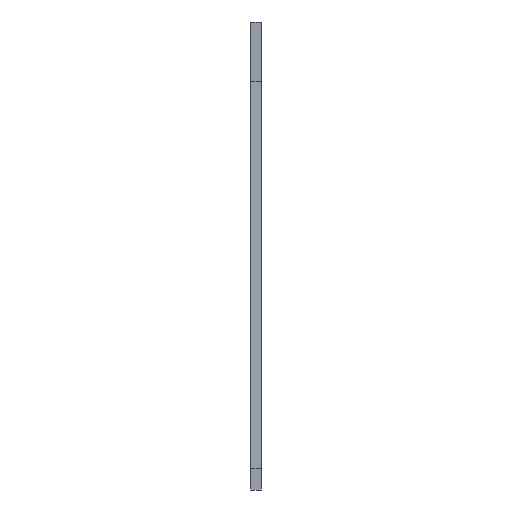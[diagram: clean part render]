
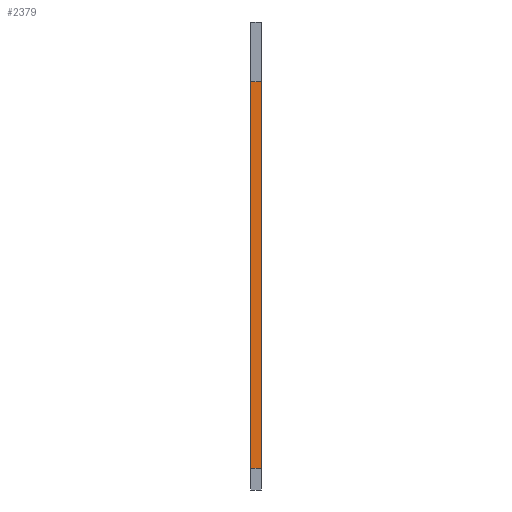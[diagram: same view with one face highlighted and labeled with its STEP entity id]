
A CAD part, front view. The second image highlights one B-rep face of the part: STEP entity #2379.
In plain terms, the highlighted planar face has unit normal (0, -1, 0.031).
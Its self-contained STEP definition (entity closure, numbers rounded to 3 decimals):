
#32 = PLANE('',#33);
#33 = AXIS2_PLACEMENT_3D('',#34,#35,#36);
#34 = CARTESIAN_POINT('',(143.,39.,-22.));
#35 = DIRECTION('',(-1.,-0.,-0.));
#36 = DIRECTION('',(0.,0.,-1.));
#599 = VERTEX_POINT('',#600);
#600 = CARTESIAN_POINT('',(143.,-86.878,-157.));
#614 = PLANE('',#615);
#615 = AXIS2_PLACEMENT_3D('',#616,#617,#618);
#616 = CARTESIAN_POINT('',(143.,-89.,-157.));
#617 = DIRECTION('',(0.,0.,1.));
#618 = DIRECTION('',(1.,0.,0.));
#626 = EDGE_CURVE('',#627,#599,#629,.T.);
#627 = VERTEX_POINT('',#628);
#628 = CARTESIAN_POINT('',(143.,-82.437,-14.));
#629 = SURFACE_CURVE('',#630,(#634,#641),.PCURVE_S1.);
#630 = LINE('',#631,#632);
#631 = CARTESIAN_POINT('',(143.,-81.998,0.124));
#632 = VECTOR('',#633,1.);
#633 = DIRECTION('',(-0.,-0.031,-1.));
#634 = PCURVE('',#32,#635);
#635 = DEFINITIONAL_REPRESENTATION('',(#636),#640);
#636 = LINE('',#637,#638);
#637 = CARTESIAN_POINT('',(-22.124,120.998));
#638 = VECTOR('',#639,1.);
#639 = DIRECTION('',(1.,0.031));
#640 = ( GEOMETRIC_REPRESENTATION_CONTEXT(2) 
PARAMETRIC_REPRESENTATION_CONTEXT() REPRESENTATION_CONTEXT('2D SPACE',''
  ) );
#641 = PCURVE('',#642,#647);
#642 = PLANE('',#643);
#643 = AXIS2_PLACEMENT_3D('',#644,#645,#646);
#644 = CARTESIAN_POINT('',(143.,-81.998,0.124));
#645 = DIRECTION('',(-0.,-1.,0.031));
#646 = DIRECTION('',(0.,0.031,1.));
#647 = DEFINITIONAL_REPRESENTATION('',(#648),#652);
#648 = LINE('',#649,#650);
#649 = CARTESIAN_POINT('',(-0.,-0.));
#650 = VECTOR('',#651,1.);
#651 = DIRECTION('',(-1.,0.));
#652 = ( GEOMETRIC_REPRESENTATION_CONTEXT(2) 
PARAMETRIC_REPRESENTATION_CONTEXT() REPRESENTATION_CONTEXT('2D SPACE',''
  ) );
#670 = PLANE('',#671);
#671 = AXIS2_PLACEMENT_3D('',#672,#673,#674);
#672 = CARTESIAN_POINT('',(143.,-97.,-14.));
#673 = DIRECTION('',(0.,0.,1.));
#674 = DIRECTION('',(1.,0.,0.));
#2109 = PLANE('',#2110);
#2110 = AXIS2_PLACEMENT_3D('',#2111,#2112,#2113);
#2111 = CARTESIAN_POINT('',(147.,-97.,-14.));
#2112 = DIRECTION('',(1.,0.,0.));
#2113 = DIRECTION('',(0.,0.,1.));
#2291 = VERTEX_POINT('',#2292);
#2292 = CARTESIAN_POINT('',(147.,-82.437,-14.));
#2313 = EDGE_CURVE('',#627,#2291,#2314,.T.);
#2314 = SURFACE_CURVE('',#2315,(#2319,#2325),.PCURVE_S1.);
#2315 = LINE('',#2316,#2317);
#2316 = CARTESIAN_POINT('',(143.,-82.437,-14.));
#2317 = VECTOR('',#2318,1.);
#2318 = DIRECTION('',(1.,-0.,0.));
#2319 = PCURVE('',#670,#2320);
#2320 = DEFINITIONAL_REPRESENTATION('',(#2321),#2324);
#2321 = B_SPLINE_CURVE_WITH_KNOTS('',1,(#2322,#2323),.UNSPECIFIED.,.F.,
  .F.,(2,2),(0.,4.),.PIECEWISE_BEZIER_KNOTS.);
#2322 = CARTESIAN_POINT('',(0.,14.563));
#2323 = CARTESIAN_POINT('',(4.,14.563));
#2324 = ( GEOMETRIC_REPRESENTATION_CONTEXT(2) 
PARAMETRIC_REPRESENTATION_CONTEXT() REPRESENTATION_CONTEXT('2D SPACE',''
  ) );
#2325 = PCURVE('',#642,#2326);
#2326 = DEFINITIONAL_REPRESENTATION('',(#2327),#2330);
#2327 = B_SPLINE_CURVE_WITH_KNOTS('',1,(#2328,#2329),.UNSPECIFIED.,.F.,
  .F.,(2,2),(0.,4.),.PIECEWISE_BEZIER_KNOTS.);
#2328 = CARTESIAN_POINT('',(-14.131,0.));
#2329 = CARTESIAN_POINT('',(-14.131,-4.));
#2330 = ( GEOMETRIC_REPRESENTATION_CONTEXT(2) 
PARAMETRIC_REPRESENTATION_CONTEXT() REPRESENTATION_CONTEXT('2D SPACE',''
  ) );
#2379 = ADVANCED_FACE('',(#2380),#642,.T.);
#2380 = FACE_BOUND('',#2381,.F.);
#2381 = EDGE_LOOP('',(#2382,#2383,#2384,#2407));
#2382 = ORIENTED_EDGE('',*,*,#626,.F.);
#2383 = ORIENTED_EDGE('',*,*,#2313,.T.);
#2384 = ORIENTED_EDGE('',*,*,#2385,.T.);
#2385 = EDGE_CURVE('',#2291,#2386,#2388,.T.);
#2386 = VERTEX_POINT('',#2387);
#2387 = CARTESIAN_POINT('',(147.,-86.878,-157.));
#2388 = SURFACE_CURVE('',#2389,(#2393,#2400),.PCURVE_S1.);
#2389 = LINE('',#2390,#2391);
#2390 = CARTESIAN_POINT('',(147.,-81.998,0.124));
#2391 = VECTOR('',#2392,1.);
#2392 = DIRECTION('',(-0.,-0.031,-1.));
#2393 = PCURVE('',#642,#2394);
#2394 = DEFINITIONAL_REPRESENTATION('',(#2395),#2399);
#2395 = LINE('',#2396,#2397);
#2396 = CARTESIAN_POINT('',(-0.,-4.));
#2397 = VECTOR('',#2398,1.);
#2398 = DIRECTION('',(-1.,0.));
#2399 = ( GEOMETRIC_REPRESENTATION_CONTEXT(2) 
PARAMETRIC_REPRESENTATION_CONTEXT() REPRESENTATION_CONTEXT('2D SPACE',''
  ) );
#2400 = PCURVE('',#2109,#2401);
#2401 = DEFINITIONAL_REPRESENTATION('',(#2402),#2406);
#2402 = LINE('',#2403,#2404);
#2403 = CARTESIAN_POINT('',(14.124,-15.002));
#2404 = VECTOR('',#2405,1.);
#2405 = DIRECTION('',(-1.,0.031));
#2406 = ( GEOMETRIC_REPRESENTATION_CONTEXT(2) 
PARAMETRIC_REPRESENTATION_CONTEXT() REPRESENTATION_CONTEXT('2D SPACE',''
  ) );
#2407 = ORIENTED_EDGE('',*,*,#2408,.F.);
#2408 = EDGE_CURVE('',#599,#2386,#2409,.T.);
#2409 = SURFACE_CURVE('',#2410,(#2414,#2420),.PCURVE_S1.);
#2410 = LINE('',#2411,#2412);
#2411 = CARTESIAN_POINT('',(143.,-86.878,-157.));
#2412 = VECTOR('',#2413,1.);
#2413 = DIRECTION('',(1.,-0.,0.));
#2414 = PCURVE('',#642,#2415);
#2415 = DEFINITIONAL_REPRESENTATION('',(#2416),#2419);
#2416 = B_SPLINE_CURVE_WITH_KNOTS('',1,(#2417,#2418),.UNSPECIFIED.,.F.,
  .F.,(2,2),(0.,4.),.PIECEWISE_BEZIER_KNOTS.);
#2417 = CARTESIAN_POINT('',(-157.2,0.));
#2418 = CARTESIAN_POINT('',(-157.2,-4.));
#2419 = ( GEOMETRIC_REPRESENTATION_CONTEXT(2) 
PARAMETRIC_REPRESENTATION_CONTEXT() REPRESENTATION_CONTEXT('2D SPACE',''
  ) );
#2420 = PCURVE('',#614,#2421);
#2421 = DEFINITIONAL_REPRESENTATION('',(#2422),#2425);
#2422 = B_SPLINE_CURVE_WITH_KNOTS('',1,(#2423,#2424),.UNSPECIFIED.,.F.,
  .F.,(2,2),(0.,4.),.PIECEWISE_BEZIER_KNOTS.);
#2423 = CARTESIAN_POINT('',(0.,2.122));
#2424 = CARTESIAN_POINT('',(4.,2.122));
#2425 = ( GEOMETRIC_REPRESENTATION_CONTEXT(2) 
PARAMETRIC_REPRESENTATION_CONTEXT() REPRESENTATION_CONTEXT('2D SPACE',''
  ) );
